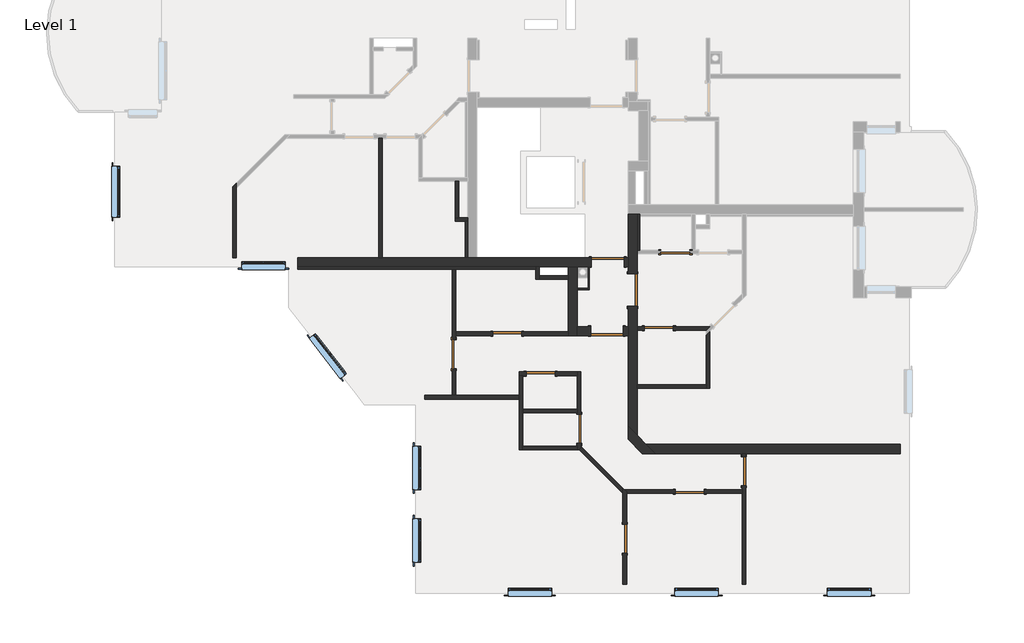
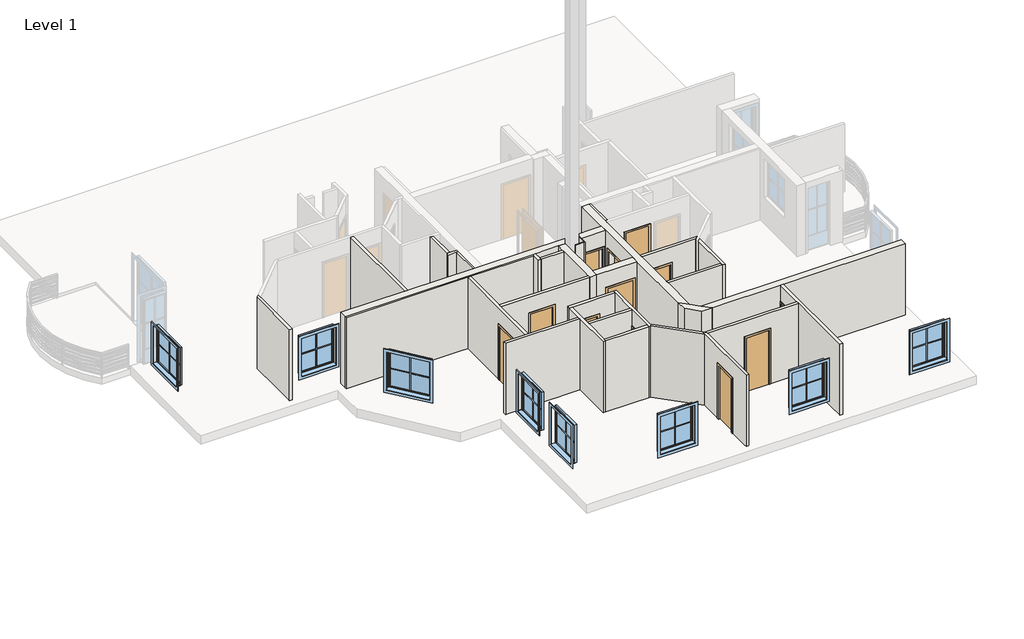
# One storey, part 1 of 4: 32 walls, 12 doors, 8 windows.
"""IFC4 building model written with IfcOpenShell, lengths in millimetres."""

from ifc_helpers import new_model, si_unit, frame, origin, place, context, project, spatial, polyline, outline, extrude, faceted_brep, transform, mapped, element, save
from components import standard_door_sd_800x2000_6a16926d, standard_door_sd_800x2000_80f4ff25, standard_door_sd_900x2000_a6683946, standard_door_sd_900x2000_4224ae2a, standard_window_with_mullions_d3525f46, standard_window_with_mullions_80486b60

model = new_model("IFC4")

# Units and contexts
model_context = context("Model", 3, world=origin())
ifc_project = project(units=[si_unit("LENGTHUNIT", "METRE", prefix="MILLI")], contexts=[model_context])

# Site, building, storey
site = spatial("IfcSite", under=ifc_project)
building = spatial("IfcBuilding", under=site)
storey = spatial("IfcBuildingStorey", under=building, Name="Level 1", Elevation=2950.0)

# Doors
placement = place(None, origin())
standard_door_sd_800x2000_shape = standard_door_sd_800x2000_6a16926d(model_context)
element("IfcDoor", 1, ObjectType="Standard Door : SD 800x2000", at=placement, inside=storey, context=model_context, shape_type="MappedRepresentation", body=[
    mapped(standard_door_sd_800x2000_shape, transform((3260.550214, -8282.3709459, 2950.0), x_axis=(0.9999999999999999, 0.0, 0.0), y_axis=(0.0, 0.9999999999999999, 0.0), z_axis=(0.0, 0.0, 1.0))),
])
standard_door_sd_800x2000_2_shape = standard_door_sd_800x2000_80f4ff25(model_context)
element("IfcDoor", 2, ObjectType="Standard Door : SD 800x2000", at=placement, inside=storey, context=model_context, shape_type="MappedRepresentation", body=[
    mapped(standard_door_sd_800x2000_2_shape, transform((2865.7332503, -1682.3709459, 2950.0), x_axis=(-1.0, 0.0, 0.0), y_axis=(0.0, -1.0, 0.0), z_axis=(0.0, 0.0, 1.0))),
])
element("IfcDoor", 3, ObjectType="Standard Door : SD 800x2000", at=placement, inside=storey, context=model_context, shape_type="MappedRepresentation", body=[
    mapped(standard_door_sd_800x2000_2_shape, transform((2412.0268037, -3782.3709459, 2950.0), x_axis=(1.0, 0.0, 0.0), y_axis=(0.0, 1.0, 0.0), z_axis=(0.0, 0.0, 1.0))),
])
element("IfcDoor", 4, ObjectType="Standard Door : SD 800x2000", at=placement, inside=storey, context=model_context, shape_type="MappedRepresentation", body=[
    mapped(standard_door_sd_800x2000_2_shape, transform((-1766.5169517, -3932.3709459, 2950.0), x_axis=(1.0, 0.0, 0.0), y_axis=(0.0, 1.0, 0.0), z_axis=(0.0, 0.0, 1.0))),
])
element("IfcDoor", 5, ObjectType="Standard Door : SD 800x2000", at=placement, inside=storey, context=model_context, shape_type="MappedRepresentation", body=[
    mapped(standard_door_sd_800x2000_2_shape, transform((-847.1962165, -5032.3709459, 2950.0), x_axis=(1.0, 0.0, 0.0), y_axis=(0.0, 1.0, 0.0), z_axis=(0.0, 0.0, 1.0))),
])
element("IfcDoor", 6, ObjectType="Standard Door : SD 800x2000", at=placement, inside=storey, context=model_context, shape_type="MappedRepresentation", body=[
    mapped(standard_door_sd_800x2000_2_shape, transform((-3237.1962165, -4492.2910381, 2950.0), x_axis=(0.0, 1.0, 0.0), y_axis=(-1.0, 0.0, 0.0), z_axis=(0.0, 0.0, 1.0))),
])
element("IfcDoor", 7, ObjectType="Standard Door : SD 800x2000", at=placement, inside=storey, context=model_context, shape_type="MappedRepresentation", body=[
    mapped(standard_door_sd_800x2000_2_shape, transform((212.8037835, -6551.9513234, 2950.0), x_axis=(0.0, -1.0, 0.0), y_axis=(1.0, 0.0, 0.0), z_axis=(0.0, 0.0, 1.0))),
])
element("IfcDoor", 8, ObjectType="Standard Door : SD 800x2000", at=placement, inside=storey, context=model_context, shape_type="MappedRepresentation", body=[
    mapped(standard_door_sd_800x2000_2_shape, transform((4753.039213, -7722.1014891, 2950.0), x_axis=(0.0, -1.0, 0.0), y_axis=(1.0, 0.0, 0.0), z_axis=(0.0, 0.0, 1.0))),
])
element("IfcDoor", 9, ObjectType="Standard Door : SD 800x2000", at=placement, inside=storey, context=model_context, shape_type="MappedRepresentation", body=[
    mapped(standard_door_sd_800x2000_2_shape, transform((1471.3824272, -9582.3709459, 2950.0), x_axis=(0.0, -0.9999999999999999, 0.0), y_axis=(0.9999999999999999, 0.0, 0.0), z_axis=(0.0, 0.0, 1.0))),
])
standard_door_sd_900x2000_shape = standard_door_sd_900x2000_a6683946(model_context)
element("IfcDoor", 10, ObjectType="Standard Door : SD 900x2000", at=placement, inside=storey, context=model_context, shape_type="MappedRepresentation", body=[
    mapped(standard_door_sd_900x2000_shape, transform((1002.8073371, -1957.3709459, 2950.0), x_axis=(-1.0, 0.0, 0.0), y_axis=(0.0, -1.0, 0.0), z_axis=(0.0, 0.0, 1.0))),
])
standard_door_sd_900x2000_2_shape = standard_door_sd_900x2000_4224ae2a(model_context)
element("IfcDoor", 11, ObjectType="Standard Door : SD 900x2000", at=placement, inside=storey, context=model_context, shape_type="MappedRepresentation", body=[
    mapped(standard_door_sd_900x2000_2_shape, transform((980.1794135, -3857.3709459, 2950.0), x_axis=(-1.0, 0.0, 0.0), y_axis=(0.0, -1.0, 0.0), z_axis=(0.0, 0.0, 1.0))),
])
element("IfcDoor", 12, ObjectType="Standard Door : SD 900x2000", at=placement, inside=storey, context=model_context, shape_type="MappedRepresentation", body=[
    mapped(standard_door_sd_900x2000_2_shape, transform((1687.8070318, -2727.079256, 2950.0), x_axis=(-8.145451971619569e-07, -0.9999999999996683, 0.0), y_axis=(0.9999999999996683, -8.145451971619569e-07, 0.0), z_axis=(0.0, 0.0, 1.0))),
])

# Walls
element("IfcWall", 13, ObjectType="Interior - 100mm", at=placement, inside=storey, context=model_context, shape_type="SweptSolid", body=[
    extrude(outline(polyline([(-3207.1962165, -732.3709459), (-3207.1962165, 267.6290541), (-3107.1962165, 267.6290541), (-3107.1962165, -732.3709459), (-3207.1962165, -732.3709459)])), frame((0.0, 0.0, 2950.0), z_axis=(0.0, 0.0, 1.0), x_axis=(1.0, 0.0, 0.0)), (0.0, 0.0, 1.0), 2630.0),
])
element("IfcWall", 14, ObjectType="Interior - 100mm", at=placement, inside=storey, context=model_context, shape_type="Brep", body=[
    faceted_brep([(-3207.1962165, -832.3709459, 2950.0), (-2922.1962165, -832.3709459, 2950.0), (-2857.1962165, -832.3709459, 2950.0), (-2857.1962165, -832.3709459, 5580.0), (-2922.1962165, -832.3709459, 5580.0), (-3207.1962165, -832.3709459, 5580.0), (-3207.1962165, -732.3709459, 2950.0), (-3207.1962165, -732.3709459, 5580.0), (-3107.1962165, -732.3709459, 5580.0), (-2857.1962165, -732.3709459, 5580.0), (-2857.1962165, -732.3709459, 2950.0), (-3107.1962165, -732.3709459, 2950.0)], [[[0, 1, 2, 3, 4, 5]], [[6, 7, 8, 9, 10, 11]], [[2, 1, 0, 6, 11, 10]], [[0, 5, 7, 6]], [[3, 2, 10, 9]], [[5, 4, 3, 9, 8, 7]]]),
])
element("IfcWall", 15, ObjectType="Interior - 100mm", at=placement, inside=storey, context=model_context, shape_type="Brep", body=[
    faceted_brep([(-986.4381272, -2082.3709459, 2950.0), (-986.4381272, -2147.3709459, 2950.0), (-986.4381272, -2432.3709459, 2950.0), (-986.4381272, -2432.3709459, 5580.0), (-986.4381272, -2147.3709459, 5580.0), (-986.4381272, -2082.3709459, 5580.0), (-886.4381272, -2082.3709459, 2950.0), (-886.4381272, -2082.3709459, 5580.0), (-886.4381272, -2332.3709459, 5580.0), (-886.4381272, -2432.3709459, 5580.0), (-886.4381272, -2432.3709459, 2950.0), (-886.4381272, -2332.3709459, 2950.0)], [[[0, 1, 2, 3, 4, 5]], [[6, 7, 8, 9, 10, 11]], [[2, 1, 0, 6, 11, 10]], [[3, 2, 10, 9]], [[0, 5, 7, 6]], [[5, 4, 3, 9, 8, 7]]]),
])
element("IfcWall", 16, ObjectType="Interior - 100mm", at=placement, inside=storey, context=model_context, shape_type="SweptSolid", body=[
    extrude(outline(polyline([(-86.4381272, -2432.3709459), (-886.4381272, -2432.3709459), (-886.4381272, -2332.3709459), (-86.4381272, -2332.3709459), (-86.4381272, -2432.3709459)])), frame((0.0, 0.0, 2950.0), z_axis=(0.0, 0.0, 1.0), x_axis=(1.0, 0.0, 0.0)), (0.0, 0.0, 1.0), 2630.0),
])
element("IfcWall", 17, ObjectType="Interior - 100mm", at=placement, inside=storey, context=model_context, shape_type="Brep", body=[
    faceted_brep([(4803.039213, -10832.3709459, 2950.0), (4703.039213, -10832.3709459, 2950.0), (4703.039213, -8332.3709459, 2950.0), (4703.039213, -8232.3709459, 2950.0), (4703.039213, -8122.1014891, 2950.0), (4803.039213, -8122.1014891, 2950.0), (4703.039213, -7232.3709459, 2950.0), (4803.039213, -7232.3709459, 2950.0), (4803.039213, -7322.1014891, 2950.0), (4703.039213, -7322.1014891, 2950.0), (4703.039213, -10832.3709459, 5580.0), (4703.039213, -8332.3709459, 5580.0), (4703.039213, -8232.3709459, 5580.0), (4703.039213, -7232.3709459, 5580.0), (4703.039213, -7322.1014891, 4950.0), (4703.039213, -8122.1014891, 4950.0), (4803.039213, -10832.3709459, 5580.0), (4803.039213, -8122.1014891, 4950.0), (4803.039213, -7322.1014891, 4950.0), (4803.039213, -7232.3709459, 5580.0)], [[[0, 1, 2, 3, 4, 5]], [[6, 7, 8, 9]], [[1, 10, 11, 12, 13, 6, 9, 14, 15, 4, 3, 2]], [[16, 0, 5, 17, 18, 8, 7, 19]], [[10, 1, 0, 16]], [[6, 13, 19, 7]], [[13, 12, 11, 10, 16, 19]], [[15, 17, 5, 4]], [[17, 15, 14, 18]], [[18, 14, 9, 8]]]),
])
element("IfcWall", 18, ObjectType="Interior - 100mm", at=placement, inside=storey, context=model_context, shape_type="Brep", body=[
    faceted_brep([(1421.3824272, -10832.3709459, 2950.0), (1421.3824272, -9982.3709459, 2950.0), (1521.3824272, -9982.3709459, 2950.0), (1521.3824272, -10832.3709459, 2950.0), (1421.3824272, -9182.3709459, 2950.0), (1421.3824272, -8332.3709459, 2950.0), (1421.3824272, -8190.9495897, 2950.0), (1462.8037835, -8232.3709459, 2950.0), (1521.3824272, -8290.9495897, 2950.0), (1521.3824272, -8332.3709459, 2950.0), (1521.3824272, -9182.3709459, 2950.0), (1421.3824272, -9982.3709459, 4950.0), (1421.3824272, -10832.3709459, 5580.0), (1421.3824272, -8332.3709459, 5580.0), (1421.3824272, -8190.9495897, 5580.0), (1421.3824272, -9182.3709459, 4950.0), (1521.3824272, -9982.3709459, 4950.0), (1521.3824272, -9182.3709459, 4950.0), (1521.3824272, -8290.9495897, 5580.0), (1521.3824272, -8332.3709459, 5580.0), (1521.3824272, -10832.3709459, 5580.0), (1462.8037835, -8232.3709459, 5580.0)], [[[0, 1, 2, 3]], [[4, 5, 6, 7, 8, 9, 10]], [[11, 1, 0, 12, 13, 14, 6, 5, 4, 15]], [[3, 2, 16, 17, 10, 9, 8, 18, 19, 20]], [[12, 0, 3, 20]], [[6, 14, 21, 18, 8, 7]], [[14, 13, 12, 20, 19, 18, 21]], [[16, 2, 1, 11]], [[17, 16, 11, 15]], [[10, 17, 15, 4]]]),
])
element("IfcWall", 19, ObjectType="Interior - 100mm", at=placement, inside=storey, context=model_context, shape_type="Brep", body=[
    faceted_brep([(3712.8037835, -3973.7923022, 2950.0), (3712.8037835, -5332.3709459, 2950.0), (3712.8037835, -5432.3709459, 2950.0), (3712.8037835, -5432.3709459, 5580.0), (3712.8037835, -5332.3709459, 5580.0), (3712.8037835, -3973.7923022, 5580.0), (3812.8037835, -3873.7923022, 2950.0), (3812.8037835, -3873.7923022, 5580.0), (3812.8037835, -5432.3709459, 5580.0), (3812.8037835, -5432.3709459, 2950.0)], [[[0, 1, 2, 3, 4, 5]], [[6, 7, 8, 9]], [[2, 1, 0, 6, 9]], [[3, 2, 9, 8]], [[0, 5, 7, 6]], [[5, 4, 3, 8, 7]]]),
])
element("IfcWall", 20, ObjectType="Interior - 100mm", at=placement, inside=storey, context=model_context, shape_type="SweptSolid", body=[
    extrude(outline(polyline([(1812.8049097, -5332.3709459), (3712.8037835, -5332.3709459), (3712.8037835, -5432.3709459), (1812.8048282, -5432.3709459), (1812.8049097, -5332.3709459)])), frame((0.0, 0.0, 2950.0), z_axis=(0.0, 0.0, 1.0), x_axis=(1.0, 0.0, 0.0)), (0.0, 0.0, 1.0), 2630.0),
])
element("IfcWall", 21, ObjectType="Interior - 100mm", at=placement, inside=storey, context=model_context, shape_type="Brep", body=[
    faceted_brep([(3712.8037835, -3832.3709459, 2950.0), (2812.0268037, -3832.3709459, 2950.0), (2812.0268037, -3732.3709459, 2950.0), (3812.8037835, -3732.3709459, 2950.0), (2012.0268037, -3832.3709459, 2950.0), (1812.8061315, -3832.3709459, 2950.0), (1812.806213, -3732.3709459, 2950.0), (2012.0268037, -3732.3709459, 2950.0), (2812.0268037, -3732.3709459, 4950.0), (2012.0268037, -3732.3709459, 4950.0), (1812.806213, -3732.3709459, 5580.0), (3812.8037835, -3732.3709459, 5580.0), (2812.0268037, -3832.3709459, 4950.0), (3712.8037835, -3832.3709459, 5580.0), (1812.8061315, -3832.3709459, 5580.0), (2012.0268037, -3832.3709459, 4950.0)], [[[0, 1, 2, 3]], [[4, 5, 6, 7]], [[3, 2, 8, 9, 7, 6, 10, 11]], [[12, 1, 0, 13, 14, 5, 4, 15]], [[10, 6, 5, 14]], [[3, 11, 13, 0]], [[11, 10, 14, 13]], [[8, 2, 1, 12]], [[9, 8, 12, 15]], [[7, 9, 15, 4]]]),
])
element("IfcWall", 22, ObjectType="Interior - 100mm", at=placement, inside=storey, context=model_context, shape_type="Brep", body=[
    faceted_brep([(-9237.1962165, 220.8120513, 2950.0), (-9237.1962165, 79.390695, 2950.0), (-9237.1962165, -1832.3709459, 2950.0), (-9337.1962165, -1832.3709459, 2950.0), (-9337.1962165, 120.8120513, 2950.0), (-9237.1962165, 220.8120513, 5580.0), (-9237.1962165, 79.390695, 5580.0), (-9237.1962165, -1832.3709459, 5580.0), (-9337.1962165, -1832.3709459, 5580.0), (-9337.1962165, 120.8120513, 5580.0)], [[[0, 1, 2, 3, 4]], [[2, 1, 0, 5, 6, 7]], [[3, 8, 9, 4]], [[2, 7, 8, 3]], [[5, 0, 4, 9]], [[7, 6, 5, 9, 8]]]),
])
element("IfcWall", 23, ObjectType="Interior - 100mm", at=placement, inside=storey, context=model_context, shape_type="SweptSolid", body=[
    extrude(outline(polyline([(-5207.1962165, 1459.6332748), (-5207.1962165, -1832.3709459), (-5307.1962165, -1832.3709459), (-5307.1962165, 1459.6332748), (-5207.1962165, 1459.6332748)])), frame((0.0, 0.0, 2950.0), z_axis=(0.0, 0.0, 1.0), x_axis=(1.0, 0.0, 0.0)), (0.0, 0.0, 1.0), 2630.0),
])
element("IfcWall", 24, ObjectType="Interior - 100mm", at=placement, inside=storey, context=model_context, shape_type="Brep", body=[
    faceted_brep([(4703.039213, -8332.3709459, 2950.0), (3660.550214, -8332.3709459, 2950.0), (3660.550214, -8232.3709459, 2950.0), (4703.039213, -8232.3709459, 2950.0), (2860.550214, -8332.3709459, 2950.0), (1521.3824272, -8332.3709459, 2950.0), (1521.3824272, -8290.9495897, 2950.0), (1462.8037835, -8232.3709459, 2950.0), (2860.550214, -8232.3709459, 2950.0), (3660.550214, -8232.3709459, 4950.0), (2860.550214, -8232.3709459, 4950.0), (1462.8037835, -8232.3709459, 5580.0), (4703.039213, -8232.3709459, 5580.0), (3660.550214, -8332.3709459, 4950.0), (4703.039213, -8332.3709459, 5580.0), (1521.3824272, -8332.3709459, 5580.0), (2860.550214, -8332.3709459, 4950.0), (1521.3824272, -8290.9495897, 5580.0)], [[[0, 1, 2, 3]], [[4, 5, 6, 7, 8]], [[3, 2, 9, 10, 8, 7, 11, 12]], [[13, 1, 0, 14, 15, 5, 4, 16]], [[3, 12, 14, 0]], [[11, 7, 6, 17]], [[6, 5, 15, 17]], [[12, 11, 17, 15, 14]], [[9, 2, 1, 13]], [[10, 9, 13, 16]], [[8, 10, 16, 4]]]),
])
element("IfcWall", 25, ObjectType="Interior - 100mm", at=placement, inside=storey, context=model_context, shape_type="SweptSolid", body=[
    extrude(outline(polyline([(1421.3824272, -8332.3709459), (221.3824272, -7132.3709459), (292.0931053, -7061.6602678), (1421.3824272, -8190.9495897), (1421.3824272, -8332.3709459)])), frame((0.0, 0.0, 2950.0), z_axis=(0.0, 0.0, 1.0), x_axis=(1.0, 0.0, 0.0)), (0.0, 0.0, 1.0), 2630.0),
])
element("IfcWall", 26, ObjectType="Interior - 100mm", at=placement, inside=storey, context=model_context, shape_type="Brep", body=[
    faceted_brep([(-447.1962165, -5082.3709459, 4950.0), (-447.1962165, -5082.3709459, 2950.0), (162.8037835, -5082.3709459, 2950.0), (162.8037835, -5082.3709459, 5580.0), (-1337.1962165, -5082.3709459, 5580.0), (-1437.1962165, -5082.3709459, 5580.0), (-1437.1962165, -5082.3709459, 2950.0), (-1337.1962165, -5082.3709459, 2950.0), (-1247.1962165, -5082.3709459, 2950.0), (-1247.1962165, -5082.3709459, 4950.0), (162.8037835, -4982.3709459, 2950.0), (-447.1962165, -4982.3709459, 2950.0), (-447.1962165, -4982.3709459, 4950.0), (-1247.1962165, -4982.3709459, 4950.0), (-1247.1962165, -4982.3709459, 2950.0), (-1437.1962165, -4982.3709459, 2950.0), (-1437.1962165, -4982.3709459, 5580.0), (162.8037835, -4982.3709459, 5580.0)], [[[0, 1, 2, 3, 4, 5, 6, 7, 8, 9]], [[10, 11, 12, 13, 14, 15, 16, 17]], [[2, 1, 11, 10]], [[8, 7, 6, 15, 14]], [[3, 2, 10, 17]], [[6, 5, 16, 15]], [[5, 4, 3, 17, 16]], [[12, 11, 1, 0]], [[13, 12, 0, 9]], [[14, 13, 9, 8]]]),
])
element("IfcWall", 27, ObjectType="Interior - 100mm", at=placement, inside=storey, context=model_context, shape_type="Brep", body=[
    faceted_brep([(-1337.1962165, -7132.3709459, 2950.0), (-1337.1962165, -7032.3709459, 2950.0), (-1337.1962165, -6112.3709459, 2950.0), (-1337.1962165, -6012.3709459, 2950.0), (-1337.1962165, -5082.3709459, 2950.0), (-1337.1962165, -5082.3709459, 5580.0), (-1337.1962165, -6012.3709459, 5580.0), (-1337.1962165, -6112.3709459, 5580.0), (-1337.1962165, -7032.3709459, 5580.0), (-1337.1962165, -7132.3709459, 5580.0), (-1437.1962165, -7132.3709459, 2950.0), (-1437.1962165, -7132.3709459, 5580.0), (-1437.1962165, -5732.3709459, 5580.0), (-1437.1962165, -5632.3709459, 5580.0), (-1437.1962165, -5082.3709459, 5580.0), (-1437.1962165, -5082.3709459, 2950.0), (-1437.1962165, -5632.3709459, 2950.0), (-1437.1962165, -5732.3709459, 2950.0)], [[[0, 1, 2, 3, 4, 5, 6, 7, 8, 9]], [[10, 11, 12, 13, 14, 15, 16, 17]], [[4, 3, 2, 1, 0, 10, 17, 16, 15]], [[0, 9, 11, 10]], [[5, 4, 15, 14]], [[9, 8, 7, 6, 5, 14, 13, 12, 11]]]),
])
element("IfcWall", 28, ObjectType="Interior - 100mm", at=placement, inside=storey, context=model_context, shape_type="SweptSolid", body=[
    extrude(outline(polyline([(-1337.1962165, -7032.3709459), (162.8037835, -7032.3709459), (162.8037835, -7132.3709459), (-1337.1962165, -7132.3709459), (-1337.1962165, -7032.3709459)])), frame((0.0, 0.0, 2950.0), z_axis=(0.0, 0.0, 1.0), x_axis=(1.0, 0.0, 0.0)), (0.0, 0.0, 1.0), 2630.0),
])
element("IfcWall", 29, ObjectType="Interior - 100mm", at=placement, inside=storey, context=model_context, shape_type="Brep", body=[
    faceted_brep([(162.8037835, -6951.9513234, 4950.0), (162.8037835, -6951.9513234, 2950.0), (162.8037835, -7032.3709459, 2950.0), (162.8037835, -7132.3709459, 2950.0), (162.8037835, -7132.3709459, 5580.0), (162.8037835, -7032.3709459, 5580.0), (162.8037835, -6112.3709459, 5580.0), (162.8037835, -6012.3709459, 5580.0), (162.8037835, -5082.3709459, 5580.0), (162.8037835, -4982.3709459, 5580.0), (162.8037835, -4982.3709459, 2950.0), (162.8037835, -5082.3709459, 2950.0), (162.8037835, -6012.3709459, 2950.0), (162.8037835, -6112.3709459, 2950.0), (162.8037835, -6151.9513234, 2950.0), (162.8037835, -6151.9513234, 4950.0), (262.8037835, -7132.3709459, 2950.0), (262.8037835, -6951.9513234, 2950.0), (262.8037835, -6951.9513234, 4950.0), (262.8037835, -6151.9513234, 4950.0), (262.8037835, -6151.9513234, 2950.0), (262.8037835, -4982.3709459, 2950.0), (262.8037835, -4982.3709459, 5580.0), (262.8037835, -7132.3709459, 5580.0)], [[[0, 1, 2, 3, 4, 5, 6, 7, 8, 9, 10, 11, 12, 13, 14, 15]], [[16, 17, 18, 19, 20, 21, 22, 23]], [[3, 2, 1, 17, 16]], [[14, 13, 12, 11, 10, 21, 20]], [[10, 9, 22, 21]], [[4, 3, 16, 23]], [[9, 8, 7, 6, 5, 4, 23, 22]], [[18, 17, 1, 0]], [[19, 18, 0, 15]], [[20, 19, 15, 14]]]),
])
element("IfcWall", 30, ObjectType="Interior - 100mm", at=placement, inside=storey, context=model_context, shape_type="SweptSolid", body=[
    extrude(outline(polyline([(162.8037835, -6112.3709459), (-1337.1962165, -6112.3709459), (-1337.1962165, -6012.3709459), (162.8037835, -6012.3709459), (162.8037835, -6112.3709459)])), frame((0.0, 0.0, 2950.0), z_axis=(0.0, 0.0, 1.0), x_axis=(1.0, 0.0, 0.0)), (0.0, 0.0, 1.0), 2630.0),
])
element("IfcWall", 31, ObjectType="Interior - 100mm", at=placement, inside=storey, context=model_context, shape_type="Brep", body=[
    faceted_brep([(-4037.1962165, -5732.3709459, 2950.0), (-1437.1962165, -5732.3709459, 2950.0), (-1437.1962165, -5732.3709459, 5580.0), (-4037.1962165, -5732.3709459, 5580.0), (-4037.1962165, -5632.3709459, 2950.0), (-4037.1962165, -5632.3709459, 5580.0), (-3287.1962165, -5632.3709459, 5580.0), (-3187.1962165, -5632.3709459, 5580.0), (-1437.1962165, -5632.3709459, 5580.0), (-1437.1962165, -5632.3709459, 2950.0), (-3187.1962165, -5632.3709459, 2950.0), (-3287.1962165, -5632.3709459, 2950.0)], [[[0, 1, 2, 3]], [[4, 5, 6, 7, 8, 9, 10, 11]], [[1, 0, 4, 11, 10, 9]], [[2, 1, 9, 8]], [[0, 3, 5, 4]], [[3, 2, 8, 7, 6, 5]]]),
])
element("IfcWall", 32, ObjectType="Interior - 100mm", at=placement, inside=storey, context=model_context, shape_type="Brep", body=[
    faceted_brep([(-3187.1962165, -2147.3709459, 2950.0), (-3187.1962165, -3882.3709459, 2950.0), (-3187.1962165, -3982.3709459, 2950.0), (-3187.1962165, -4092.2910381, 2950.0), (-3287.1962165, -4092.2910381, 2950.0), (-3287.1962165, -2147.3709459, 2950.0), (-3187.1962165, -4892.2910381, 2950.0), (-3187.1962165, -5632.3709459, 2950.0), (-3287.1962165, -5632.3709459, 2950.0), (-3287.1962165, -4892.2910381, 2950.0), (-3287.1962165, -4092.2910381, 4950.0), (-3287.1962165, -4892.2910381, 4950.0), (-3287.1962165, -5632.3709459, 5580.0), (-3287.1962165, -2147.3709459, 5580.0), (-3187.1962165, -4092.2910381, 4950.0), (-3187.1962165, -2147.3709459, 5580.0), (-3187.1962165, -3882.3709459, 5580.0), (-3187.1962165, -3982.3709459, 5580.0), (-3187.1962165, -5632.3709459, 5580.0), (-3187.1962165, -4892.2910381, 4950.0)], [[[0, 1, 2, 3, 4, 5]], [[6, 7, 8, 9]], [[5, 4, 10, 11, 9, 8, 12, 13]], [[14, 3, 2, 1, 0, 15, 16, 17, 18, 7, 6, 19]], [[5, 13, 15, 0]], [[12, 8, 7, 18]], [[13, 12, 18, 17, 16, 15]], [[10, 4, 3, 14]], [[11, 10, 14, 19]], [[9, 11, 19, 6]]]),
])
element("IfcWall", 33, ObjectType="Interior - 100mm", at=placement, inside=storey, context=model_context, shape_type="SweptSolid", body=[
    extrude(outline(polyline([(4950.0, -1366.5169517), (2950.0, -1366.5169517), (2950.0, -86.4381272), (5580.0, -86.4381272), (5580.0, -3187.1962165), (2950.0, -3187.1962165), (2950.0, -2166.5169517), (4950.0, -2166.5169517), (4950.0, -1366.5169517)])), frame((0.0, -3982.3709459, 0.0), z_axis=(0.0, 1.0, 0.0), x_axis=(0.0, 0.0, 1.0)), (0.0, 0.0, 1.0), 100.0),
])
element("IfcWall", 34, ObjectType="Interior - 250mm", at=placement, inside=storey, context=model_context, shape_type="Brep", body=[
    faceted_brep([(-7537.1962165, -1832.3709459, 2950.0), (-5307.1962165, -1832.3709459, 2950.0), (-5207.1962165, -1832.3709459, 2950.0), (-2922.1962165, -1832.3709459, 2950.0), (-2857.1962165, -1832.3709459, 2950.0), (-2607.1962165, -1832.3709459, 2950.0), (552.8073371, -1832.3709459, 2950.0), (552.8073371, -2082.3709459, 2950.0), (493.5618728, -2082.3709459, 2950.0), (463.5618728, -2082.3709459, 2950.0), (163.5618728, -2082.3709459, 2950.0), (-86.4381272, -2082.3709459, 2950.0), (-886.4381272, -2082.3709459, 2950.0), (-986.4381272, -2082.3709459, 2950.0), (-7537.1962165, -2082.3709459, 2950.0), (1452.8073371, -1832.3709459, 2950.0), (1562.8077606, -1832.3709459, 2950.0), (1562.807557, -2082.3709459, 2950.0), (1452.8073371, -2082.3709459, 2950.0), (552.8073371, -2082.3709459, 4950.0), (1452.8073371, -2082.3709459, 4950.0), (1562.807557, -2082.3709459, 5580.0), (163.5618728, -2082.3709459, 5580.0), (-86.4381272, -2082.3709459, 5580.0), (-886.4381272, -2082.3709459, 5580.0), (-986.4381272, -2082.3709459, 5580.0), (-7537.1962165, -2082.3709459, 5580.0), (552.8073371, -1832.3709459, 4950.0), (-7537.1962165, -1832.3709459, 5580.0), (-5307.1962165, -1832.3709459, 5580.0), (-5207.1962165, -1832.3709459, 5580.0), (-2922.1962165, -1832.3709459, 5580.0), (-2857.1962165, -1832.3709459, 5580.0), (-2607.1962165, -1832.3709459, 5580.0), (362.8037835, -1832.3709459, 5580.0), (1562.8077606, -1832.3709459, 5580.0), (1452.8073371, -1832.3709459, 4950.0)], [[[0, 1, 2, 3, 4, 5, 6, 7, 8, 9, 10, 11, 12, 13, 14]], [[15, 16, 17, 18]], [[14, 13, 12, 11, 10, 9, 8, 7, 19, 20, 18, 17, 21, 22, 23, 24, 25, 26]], [[27, 6, 5, 4, 3, 2, 1, 0, 28, 29, 30, 31, 32, 33, 34, 35, 16, 15, 36]], [[14, 26, 28, 0]], [[21, 17, 16, 35]], [[26, 25, 24, 23, 22, 21, 35, 34, 33, 32, 31, 30, 29, 28]], [[19, 7, 6, 27]], [[20, 19, 27, 36]], [[18, 20, 36, 15]]]),
])
element("IfcWall", 35, ObjectType="Interior - 250mm", at=placement, inside=storey, context=model_context, shape_type="Brep", body=[
    faceted_brep([(1562.803973, -6482.3711354, 2950.0), (1562.8060093, -3982.3709459, 2950.0), (1562.806213, -3732.3709459, 2950.0), (1562.8066653, -3177.0791542, 2950.0), (1812.8066653, -3177.0793578, 2950.0), (1812.806213, -3732.3709459, 2950.0), (1812.8061315, -3832.3709459, 2950.0), (1812.8049097, -5332.3709459, 2950.0), (1812.8048282, -5432.3709459, 2950.0), (1812.8037693, -6732.3709318, 2950.0), (1562.8073984, -2277.0791542, 2950.0), (1562.807557, -2082.3709459, 2950.0), (1562.8077606, -1832.3709459, 2950.0), (1562.8087381, -632.3709459, 2950.0), (1812.8087381, -632.3709459, 2950.0), (1812.8079235, -1632.3709459, 2950.0), (1812.8078421, -1732.3709459, 2950.0), (1812.8073984, -2277.0793578, 2950.0), (1562.8066653, -3177.0791542, 4950.0), (1562.803973, -6482.3711354, 5580.0), (1562.8060093, -3982.3709459, 5580.0), (1562.806213, -3732.3709459, 5580.0), (1562.807557, -2082.3709459, 5580.0), (1562.8077606, -1832.3709459, 5580.0), (1562.8087381, -632.3709459, 5580.0), (1562.8073984, -2277.0791542, 4950.0), (1812.8066653, -3177.0793578, 4950.0), (1812.8073984, -2277.0793578, 4950.0), (1812.8087381, -632.3709459, 5580.0), (1812.8079235, -1632.3709459, 5580.0), (1812.8078421, -1732.3709459, 5580.0), (1812.806213, -3732.3709459, 5580.0), (1812.8061315, -3832.3709459, 5580.0), (1812.8049097, -5332.3709459, 5580.0), (1812.8048282, -5432.3709459, 5580.0), (1812.8037693, -6732.3709318, 5580.0)], [[[0, 1, 2, 3, 4, 5, 6, 7, 8, 9]], [[10, 11, 12, 13, 14, 15, 16, 17]], [[18, 3, 2, 1, 0, 19, 20, 21, 22, 23, 24, 13, 12, 11, 10, 25]], [[9, 8, 7, 6, 5, 4, 26, 27, 17, 16, 15, 14, 28, 29, 30, 31, 32, 33, 34, 35]], [[13, 24, 28, 14]], [[19, 0, 9, 35]], [[24, 23, 22, 21, 20, 19, 35, 34, 33, 32, 31, 30, 29, 28]], [[26, 4, 3, 18]], [[27, 26, 18, 25]], [[17, 27, 25, 10]]]),
])
element("IfcWall", 36, ObjectType="Interior - 250mm", at=placement, inside=storey, context=model_context, shape_type="Brep", body=[
    faceted_brep([(-86.4381272, -2082.3709459, 2950.0), (-86.4381272, -2332.3709459, 2950.0), (-86.4381272, -2432.3709459, 2950.0), (-86.4381272, -3882.3709459, 2950.0), (-86.4381272, -3982.3709459, 2950.0), (-86.4381272, -3982.3709459, 5580.0), (-86.4381272, -3882.3709459, 5580.0), (-86.4381272, -2432.3709459, 5580.0), (-86.4381272, -2332.3709459, 5580.0), (-86.4381272, -2082.3709459, 5580.0), (163.5618728, -2082.3709459, 2950.0), (163.5618728, -2082.3709459, 5580.0), (163.5618728, -3732.3709459, 5580.0), (163.5618728, -3982.3709459, 5580.0), (163.5618728, -3982.3709459, 2950.0), (163.5618728, -3732.3709459, 2950.0), (163.5618728, -2712.3709459, 2950.0), (163.5618728, -2682.3709459, 2950.0)], [[[0, 1, 2, 3, 4, 5, 6, 7, 8, 9]], [[10, 11, 12, 13, 14, 15, 16, 17]], [[4, 3, 2, 1, 0, 10, 17, 16, 15, 14]], [[5, 4, 14, 13]], [[0, 9, 11, 10]], [[9, 8, 7, 6, 5, 13, 12, 11]]]),
])
element("IfcWall", 37, ObjectType="Interior - 250mm", at=placement, inside=storey, context=model_context, shape_type="Brep", body=[
    faceted_brep([(163.5618728, -3732.3709459, 2950.0), (530.1794135, -3732.3709459, 2950.0), (530.1794135, -3982.3709459, 2950.0), (163.5618728, -3982.3709459, 2950.0), (1430.1794135, -3732.3709459, 2950.0), (1562.806213, -3732.3709459, 2950.0), (1562.8060093, -3982.3709459, 2950.0), (1430.1794135, -3982.3709459, 2950.0), (530.1794135, -3982.3709459, 4950.0), (1430.1794135, -3982.3709459, 4950.0), (1562.8060093, -3982.3709459, 5580.0), (163.5618728, -3982.3709459, 5580.0), (530.1794135, -3732.3709459, 4950.0), (163.5618728, -3732.3709459, 5580.0), (1562.806213, -3732.3709459, 5580.0), (1430.1794135, -3732.3709459, 4950.0)], [[[0, 1, 2, 3]], [[4, 5, 6, 7]], [[3, 2, 8, 9, 7, 6, 10, 11]], [[12, 1, 0, 13, 14, 5, 4, 15]], [[3, 11, 13, 0]], [[10, 6, 5, 14]], [[11, 10, 14, 13]], [[8, 2, 1, 12]], [[9, 8, 12, 15]], [[7, 9, 15, 4]]]),
])
element("IfcWall", 38, ObjectType="Interior - 250mm", at=placement, inside=storey, context=model_context, shape_type="Brep", body=[
    faceted_brep([(1562.803685, -6835.924238, 2950.0), (1959.2503929, -7232.3709459, 2950.0), (1959.2503929, -7232.3709459, 5580.0), (1562.803685, -6835.924238, 5580.0), (1562.803973, -6482.3711354, 2950.0), (1562.803973, -6482.3711354, 5580.0), (1812.8037693, -6732.3709318, 5580.0), (2062.8037835, -6982.3709459, 5580.0), (2312.8037835, -7232.3709459, 5580.0), (2312.8037835, -7232.3709459, 2950.0), (2062.8037835, -6982.3709459, 2950.0), (1812.8037693, -6732.3709318, 2950.0)], [[[0, 1, 2, 3]], [[4, 5, 6, 7, 8, 9, 10, 11]], [[1, 0, 4, 11, 10, 9]], [[0, 3, 5, 4]], [[2, 1, 9, 8]], [[3, 2, 8, 7, 6, 5]]]),
])
element("IfcWall", 39, ObjectType="Interior - 250mm", at=placement, inside=storey, context=model_context, shape_type="Brep", body=[
    faceted_brep([(2312.8037835, -7232.3709459, 2950.0), (4703.039213, -7232.3709459, 2950.0), (4803.039213, -7232.3709459, 2950.0), (9062.8037835, -7232.3709459, 2950.0), (9062.8037835, -7232.3709459, 5580.0), (4803.039213, -7232.3709459, 5580.0), (4703.039213, -7232.3709459, 5580.0), (2312.8037835, -7232.3709459, 5580.0), (2062.8037835, -6982.3709459, 2950.0), (2062.8037835, -6982.3709459, 5580.0), (9062.8037835, -6982.3709459, 5580.0), (9062.8037835, -6982.3709459, 2950.0)], [[[0, 1, 2, 3, 4, 5, 6, 7]], [[8, 9, 10, 11]], [[3, 2, 1, 0, 8, 11]], [[0, 7, 9, 8]], [[4, 3, 11, 10]], [[7, 6, 5, 4, 10, 9]]]),
])
element("IfcWall", 40, ObjectType="Interior - 300mm", at=placement, inside=storey, context=model_context, shape_type="Brep", body=[
    faceted_brep([(463.5618728, -2082.3709459, 2950.0), (463.5618728, -2682.3709459, 2950.0), (463.5618728, -2712.3709459, 2950.0), (463.5618728, -2712.3709459, 5900.0), (463.5618728, -2682.3709459, 5900.0), (463.5618728, -2082.3709459, 5900.0), (493.5618728, -2082.3709459, 2950.0), (493.5618728, -2082.3709459, 5900.0), (493.5618728, -2712.3709459, 5900.0), (493.5618728, -2712.3709459, 2950.0)], [[[0, 1, 2, 3, 4, 5]], [[6, 7, 8, 9]], [[2, 1, 0, 6, 9]], [[5, 4, 3, 8, 7]], [[3, 2, 9, 8]], [[0, 5, 7, 6]]]),
])
element("IfcWall", 41, ObjectType="Interior - 300mm", at=placement, inside=storey, context=model_context, shape_type="SweptSolid", body=[
    extrude(outline(polyline([(163.5618728, -2682.3709459), (463.5618728, -2682.3709459), (463.5618728, -2712.3709459), (163.5618728, -2712.3709459), (163.5618728, -2682.3709459)])), frame((0.0, 0.0, 2950.0), z_axis=(0.0, 0.0, 1.0), x_axis=(1.0, 0.0, 0.0)), (0.0, 0.0, 1.0), 2950.0),
])
element("IfcWall", 42, ObjectType="Interior - 65mm", at=placement, inside=storey, context=model_context, shape_type="Brep", body=[
    faceted_brep([(-7537.1962165, -2147.3709459, 2950.0), (-3287.1962165, -2147.3709459, 2950.0), (-3187.1962165, -2147.3709459, 2950.0), (-986.4381272, -2147.3709459, 2950.0), (-986.4381272, -2147.3709459, 5580.0), (-3187.1962165, -2147.3709459, 5580.0), (-3287.1962165, -2147.3709459, 5580.0), (-7537.1962165, -2147.3709459, 5580.0), (-7537.1962165, -2082.3709459, 2950.0), (-7537.1962165, -2082.3709459, 5580.0), (-986.4381272, -2082.3709459, 5580.0), (-986.4381272, -2082.3709459, 2950.0)], [[[0, 1, 2, 3, 4, 5, 6, 7]], [[8, 9, 10, 11]], [[3, 2, 1, 0, 8, 11]], [[4, 3, 11, 10]], [[0, 7, 9, 8]], [[7, 6, 5, 4, 10, 9]]]),
])
element("IfcWall", 43, ObjectType="Interior - 65mm", at=placement, inside=storey, context=model_context, shape_type="Brep", body=[
    faceted_brep([(1877.8037835, -1632.3709459, 2950.0), (1877.8037835, -697.3709459, 2950.0), (1877.8037835, -632.3709459, 2950.0), (1877.8037835, -632.3709459, 5580.0), (1877.8037835, -697.3709459, 5580.0), (1877.8037835, -1632.3709459, 5580.0), (1812.8037835, -1632.3709459, 2950.0), (1812.8037835, -1632.3709459, 5580.0), (1812.8037835, -632.3709459, 5580.0), (1812.8037835, -632.3709459, 2950.0)], [[[0, 1, 2, 3, 4, 5]], [[6, 7, 8, 9]], [[2, 1, 0, 6, 9]], [[3, 2, 9, 8]], [[0, 5, 7, 6]], [[5, 4, 3, 8, 7]]]),
])
element("IfcWall", 44, ObjectType="Interior - 65mm", at=placement, inside=storey, context=model_context, shape_type="SweptSolid", body=[
    extrude(outline(polyline([(-2922.1962165, -1832.3709459), (-2922.1962165, -832.3709459), (-2857.1962165, -832.3709459), (-2857.1962165, -1832.3709459), (-2922.1962165, -1832.3709459)])), frame((0.0, 0.0, 2950.0), z_axis=(0.0, 0.0, 1.0), x_axis=(1.0, 0.0, 0.0)), (0.0, 0.0, 1.0), 2630.0),
])

# Windows
standard_window_with_mullions_shape = standard_window_with_mullions_d3525f46(model_context)
element("IfcWindow", 45, ObjectType="Standard Window with mullions : 1400/1400", at=placement, inside=storey, context=model_context, shape_type="MappedRepresentation", body=[
    mapped(standard_window_with_mullions_shape, transform((-6659.523259, -4502.198586, 2950.0), x_axis=(-0.6139406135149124, 0.7893522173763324, 0.0), y_axis=(-0.7893522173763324, -0.6139406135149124, 0.0), z_axis=(0.0, 0.0, 1.0))),
])
element("IfcWindow", 46, ObjectType="Standard Window with mullions : 1400/1400", at=placement, inside=storey, context=model_context, shape_type="MappedRepresentation", body=[
    mapped(standard_window_with_mullions_shape, transform((-12487.1962165, -20.1346317, 2950.0), x_axis=(0.0, 1.0, 0.0), y_axis=(-1.0, 0.0, 0.0), z_axis=(0.0, 0.0, 1.0))),
])
standard_window_with_mullions_2_shape = standard_window_with_mullions_80486b60(model_context)
element("IfcWindow", 47, ObjectType="Standard Window with mullions : 1200/1400", at=placement, inside=storey, context=model_context, shape_type="MappedRepresentation", body=[
    mapped(standard_window_with_mullions_2_shape, transform((-1144.1249228, -10982.3709459, 2950.0), x_axis=(-1.0, 0.0, 0.0), y_axis=(0.0, -1.0, 0.0), z_axis=(0.0, 0.0, 1.0))),
])
element("IfcWindow", 48, ObjectType="Standard Window with mullions : 1200/1400", at=placement, inside=storey, context=model_context, shape_type="MappedRepresentation", body=[
    mapped(standard_window_with_mullions_2_shape, transform((3453.0392115, -10982.3709459, 2950.0), x_axis=(-1.0, 0.0, 0.0), y_axis=(0.0, -1.0, 0.0), z_axis=(0.0, 0.0, 1.0))),
])
element("IfcWindow", 49, ObjectType="Standard Window with mullions : 1200/1400", at=placement, inside=storey, context=model_context, shape_type="MappedRepresentation", body=[
    mapped(standard_window_with_mullions_2_shape, transform((7657.145058, -10982.3709459, 2950.0), x_axis=(-1.0, 0.0, 0.0), y_axis=(0.0, -1.0, 0.0), z_axis=(0.0, 0.0, 1.0))),
])
element("IfcWindow", 50, ObjectType="Standard Window with mullions : 1200/1400", at=placement, inside=storey, context=model_context, shape_type="MappedRepresentation", body=[
    mapped(standard_window_with_mullions_2_shape, transform((-4187.1962165, -9632.3709452, 2950.0), x_axis=(0.0, 1.0, 0.0), y_axis=(-1.0, 0.0, 0.0), z_axis=(0.0, 0.0, 1.0))),
])
element("IfcWindow", 51, ObjectType="Standard Window with mullions : 1200/1400", at=placement, inside=storey, context=model_context, shape_type="MappedRepresentation", body=[
    mapped(standard_window_with_mullions_2_shape, transform((-8487.196218, -1982.3709459, 2950.0), x_axis=(-1.0, 0.0, 0.0), y_axis=(0.0, -1.0, 0.0), z_axis=(0.0, 0.0, 1.0))),
])
element("IfcWindow", 52, ObjectType="Standard Window with mullions : 1200/1400", at=placement, inside=storey, context=model_context, shape_type="MappedRepresentation", body=[
    mapped(standard_window_with_mullions_2_shape, transform((-4187.1962165, -7632.3709452, 2950.0), x_axis=(0.0, 1.0, 0.0), y_axis=(-1.0, 0.0, 0.0), z_axis=(0.0, 0.0, 1.0))),
])

save(model, "model.ifc")
